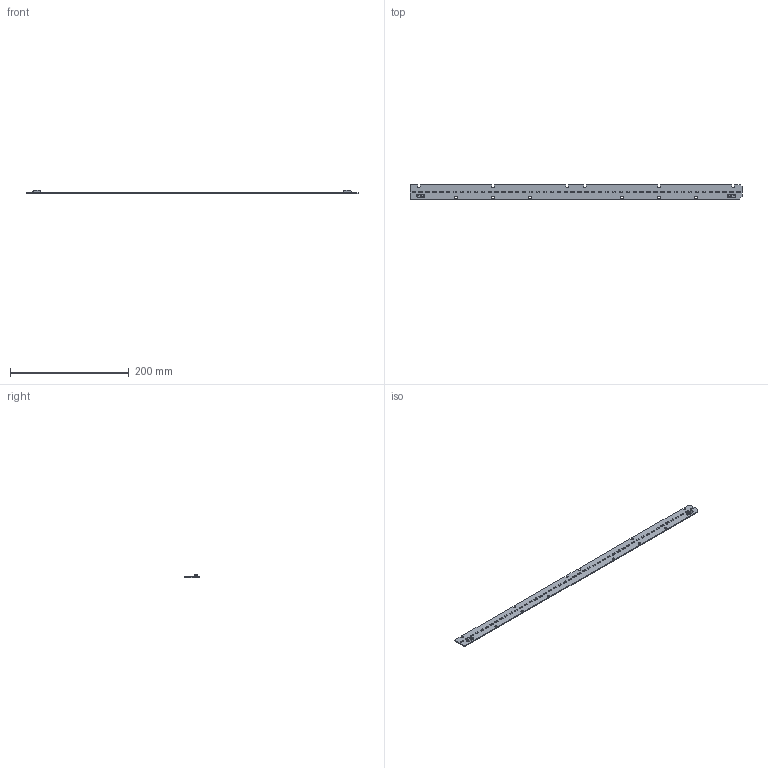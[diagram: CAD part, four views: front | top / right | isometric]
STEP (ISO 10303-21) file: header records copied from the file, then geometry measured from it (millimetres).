
FILE_DESCRIPTION (( 'STEP AP203' ), '1' );
FILE_NAME ('led_module LS562_75771_B.STEP', '2016-09-22T12:28:55', ( '' ), ( '' ), 'SwSTEP 2.0', 'SolidWorks 2014', '' );
FILE_SCHEMA (( 'CONFIG_CONTROL_DESIGN' ));
Length unit declared in the file: millimetre
Products named in the file (4): LM561B; led_module LS562_75771_B; 75747A; 7800175
Assembly tree (51 placements, depth 2):
  led_module LS562_75771_B
    75747A
    7800175  x2
    LM561B  x48
Bounding box: 560 x 24 x 5.95 mm (x, y, z)
Volume: 22315.1 mm3; surface area: 32991.9 mm2
Topology: 339 solids, 339 shells, 3026 faces, 7022 edges, 4680 vertices
Faces by surface type: plane 2372, cylinder 460, cone 192, bspline 2
Entity records: 8268 total; most frequent: CARTESIAN_POINT 1255, DIRECTION 1140, ORIENTED_EDGE 1076, EDGE_CURVE 538, VECTOR 406, LINE 406, AXIS2_PLACEMENT_3D 367, VERTEX_POINT 358
